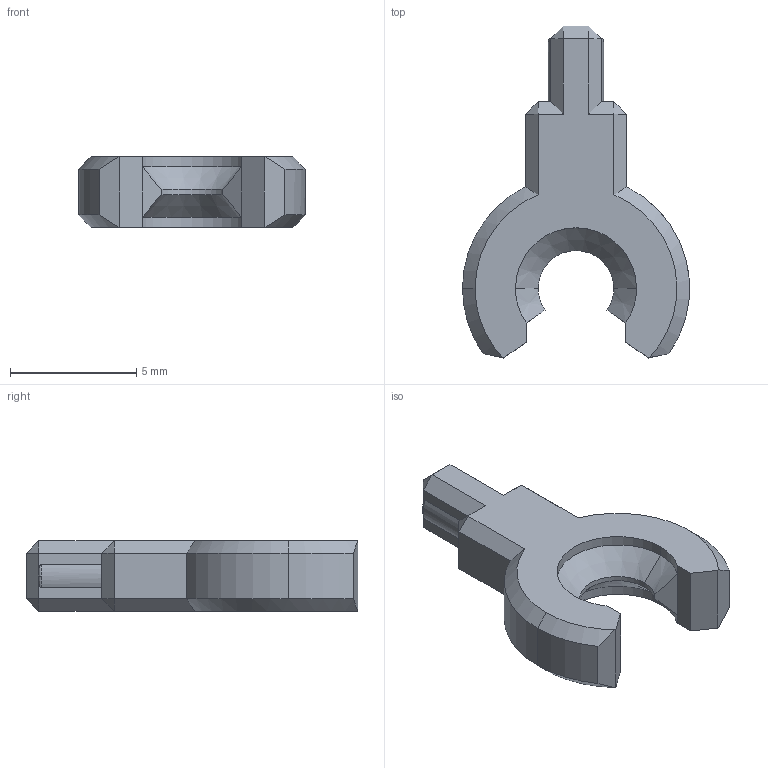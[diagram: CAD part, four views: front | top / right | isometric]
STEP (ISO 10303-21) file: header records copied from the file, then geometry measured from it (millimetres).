
FILE_DESCRIPTION (( 'STEP AP214' ), '1' );
FILE_NAME ('Front Ankle.STEP', '2023-12-23T22:24:29', ( '' ), ( '' ), 'SwSTEP 2.0', 'SolidWorks 2023', '' );
FILE_SCHEMA (( 'AUTOMOTIVE_DESIGN' ));
Length unit declared in the file: millimetre
Products named in the file (1): Front Ankle
Bounding box: 9 x 13.16 x 2.8 mm (x, y, z)
Volume: 145.3 mm3; surface area: 219.1 mm2
Topology: 1 solids, 1 shells, 75 faces, 171 edges, 98 vertices
Faces by surface type: plane 45, cylinder 15, cone 12, torus 3
Entity records: 2099 total; most frequent: CARTESIAN_POINT 405, DIRECTION 350, ORIENTED_EDGE 342, EDGE_CURVE 171, LINE 120, VECTOR 120, AXIS2_PLACEMENT_3D 115, VERTEX_POINT 98
